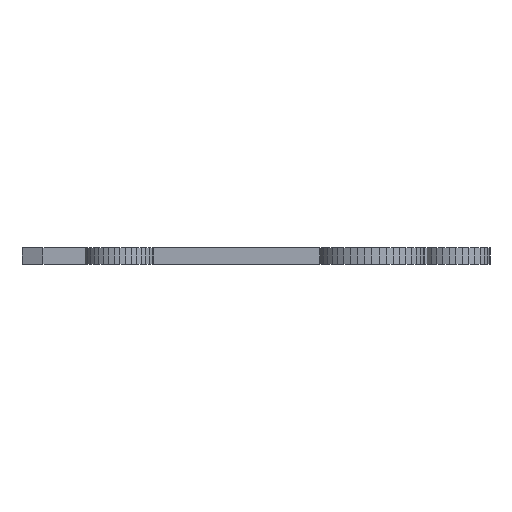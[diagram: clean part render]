
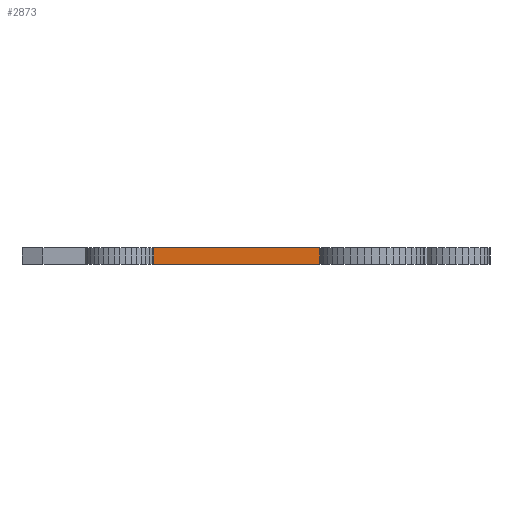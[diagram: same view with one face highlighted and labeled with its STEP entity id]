
A CAD part, left-side view. The second image highlights one B-rep face of the part: STEP entity #2873.
In plain terms, the highlighted planar face has unit normal (-0.999, 0.042, 0).
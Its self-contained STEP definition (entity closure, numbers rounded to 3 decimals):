
#72 = PLANE('',#73);
#73 = AXIS2_PLACEMENT_3D('',#74,#75,#76);
#74 = CARTESIAN_POINT('',(0.,-1.51,2.4));
#75 = DIRECTION('',(-0.,-0.,-1.));
#76 = DIRECTION('',(-1.,0.,0.));
#126 = PLANE('',#127);
#127 = AXIS2_PLACEMENT_3D('',#128,#129,#130);
#128 = CARTESIAN_POINT('',(0.,-1.51,
    0.));
#129 = DIRECTION('',(-0.,-0.,-1.));
#130 = DIRECTION('',(-1.,0.,0.));
#2765 = PLANE('',#2766);
#2766 = AXIS2_PLACEMENT_3D('',#2767,#2768,#2769);
#2767 = CARTESIAN_POINT('',(-4.,-9.634,0.));
#2768 = DIRECTION('',(-0.43,0.903,0.));
#2769 = DIRECTION('',(0.903,0.43,0.));
#2803 = VERTEX_POINT('',#2804);
#2804 = CARTESIAN_POINT('',(-2.942,-9.131,2.4));
#2825 = EDGE_CURVE('',#2826,#2803,#2828,.T.);
#2826 = VERTEX_POINT('',#2827);
#2827 = CARTESIAN_POINT('',(-2.942,-9.131,0.));
#2828 = SURFACE_CURVE('',#2829,(#2833,#2840),.PCURVE_S1.);
#2829 = LINE('',#2830,#2831);
#2830 = CARTESIAN_POINT('',(-2.942,-9.131,0.));
#2831 = VECTOR('',#2832,1.);
#2832 = DIRECTION('',(0.,0.,1.));
#2833 = PCURVE('',#2765,#2834);
#2834 = DEFINITIONAL_REPRESENTATION('',(#2835),#2839);
#2835 = LINE('',#2836,#2837);
#2836 = CARTESIAN_POINT('',(1.172,0.));
#2837 = VECTOR('',#2838,1.);
#2838 = DIRECTION('',(0.,-1.));
#2839 = ( GEOMETRIC_REPRESENTATION_CONTEXT(2) 
PARAMETRIC_REPRESENTATION_CONTEXT() REPRESENTATION_CONTEXT('2D SPACE',''
  ) );
#2840 = PCURVE('',#2841,#2846);
#2841 = PLANE('',#2842);
#2842 = AXIS2_PLACEMENT_3D('',#2843,#2844,#2845);
#2843 = CARTESIAN_POINT('',(-2.942,-9.131,0.));
#2844 = DIRECTION('',(-0.999,0.041,0.));
#2845 = DIRECTION('',(0.041,0.999,0.));
#2846 = DEFINITIONAL_REPRESENTATION('',(#2847),#2851);
#2847 = LINE('',#2848,#2849);
#2848 = CARTESIAN_POINT('',(0.,0.));
#2849 = VECTOR('',#2850,1.);
#2850 = DIRECTION('',(0.,-1.));
#2851 = ( GEOMETRIC_REPRESENTATION_CONTEXT(2) 
PARAMETRIC_REPRESENTATION_CONTEXT() REPRESENTATION_CONTEXT('2D SPACE',''
  ) );
#2873 = ADVANCED_FACE('',(#2874),#2841,.T.);
#2874 = FACE_BOUND('',#2875,.T.);
#2875 = EDGE_LOOP('',(#2876,#2877,#2900,#2928));
#2876 = ORIENTED_EDGE('',*,*,#2825,.T.);
#2877 = ORIENTED_EDGE('',*,*,#2878,.T.);
#2878 = EDGE_CURVE('',#2803,#2879,#2881,.T.);
#2879 = VERTEX_POINT('',#2880);
#2880 = CARTESIAN_POINT('',(-1.956,14.636,2.4));
#2881 = SURFACE_CURVE('',#2882,(#2886,#2893),.PCURVE_S1.);
#2882 = LINE('',#2883,#2884);
#2883 = CARTESIAN_POINT('',(-2.942,-9.131,2.4));
#2884 = VECTOR('',#2885,1.);
#2885 = DIRECTION('',(0.041,0.999,0.));
#2886 = PCURVE('',#2841,#2887);
#2887 = DEFINITIONAL_REPRESENTATION('',(#2888),#2892);
#2888 = LINE('',#2889,#2890);
#2889 = CARTESIAN_POINT('',(0.,-2.4));
#2890 = VECTOR('',#2891,1.);
#2891 = DIRECTION('',(1.,0.));
#2892 = ( GEOMETRIC_REPRESENTATION_CONTEXT(2) 
PARAMETRIC_REPRESENTATION_CONTEXT() REPRESENTATION_CONTEXT('2D SPACE',''
  ) );
#2893 = PCURVE('',#72,#2894);
#2894 = DEFINITIONAL_REPRESENTATION('',(#2895),#2899);
#2895 = LINE('',#2896,#2897);
#2896 = CARTESIAN_POINT('',(2.942,-7.621));
#2897 = VECTOR('',#2898,1.);
#2898 = DIRECTION('',(-0.041,0.999));
#2899 = ( GEOMETRIC_REPRESENTATION_CONTEXT(2) 
PARAMETRIC_REPRESENTATION_CONTEXT() REPRESENTATION_CONTEXT('2D SPACE',''
  ) );
#2900 = ORIENTED_EDGE('',*,*,#2901,.F.);
#2901 = EDGE_CURVE('',#2902,#2879,#2904,.T.);
#2902 = VERTEX_POINT('',#2903);
#2903 = CARTESIAN_POINT('',(-1.956,14.636,0.));
#2904 = SURFACE_CURVE('',#2905,(#2909,#2916),.PCURVE_S1.);
#2905 = LINE('',#2906,#2907);
#2906 = CARTESIAN_POINT('',(-1.956,14.636,0.));
#2907 = VECTOR('',#2908,1.);
#2908 = DIRECTION('',(0.,0.,1.));
#2909 = PCURVE('',#2841,#2910);
#2910 = DEFINITIONAL_REPRESENTATION('',(#2911),#2915);
#2911 = LINE('',#2912,#2913);
#2912 = CARTESIAN_POINT('',(23.788,0.));
#2913 = VECTOR('',#2914,1.);
#2914 = DIRECTION('',(0.,-1.));
#2915 = ( GEOMETRIC_REPRESENTATION_CONTEXT(2) 
PARAMETRIC_REPRESENTATION_CONTEXT() REPRESENTATION_CONTEXT('2D SPACE',''
  ) );
#2916 = PCURVE('',#2917,#2922);
#2917 = PLANE('',#2918);
#2918 = AXIS2_PLACEMENT_3D('',#2919,#2920,#2921);
#2919 = CARTESIAN_POINT('',(-1.956,14.636,0.));
#2920 = DIRECTION('',(-0.383,-0.924,0.));
#2921 = DIRECTION('',(-0.924,0.383,0.));
#2922 = DEFINITIONAL_REPRESENTATION('',(#2923),#2927);
#2923 = LINE('',#2924,#2925);
#2924 = CARTESIAN_POINT('',(0.,0.));
#2925 = VECTOR('',#2926,1.);
#2926 = DIRECTION('',(0.,-1.));
#2927 = ( GEOMETRIC_REPRESENTATION_CONTEXT(2) 
PARAMETRIC_REPRESENTATION_CONTEXT() REPRESENTATION_CONTEXT('2D SPACE',''
  ) );
#2928 = ORIENTED_EDGE('',*,*,#2929,.F.);
#2929 = EDGE_CURVE('',#2826,#2902,#2930,.T.);
#2930 = SURFACE_CURVE('',#2931,(#2935,#2942),.PCURVE_S1.);
#2931 = LINE('',#2932,#2933);
#2932 = CARTESIAN_POINT('',(-2.942,-9.131,0.));
#2933 = VECTOR('',#2934,1.);
#2934 = DIRECTION('',(0.041,0.999,0.));
#2935 = PCURVE('',#2841,#2936);
#2936 = DEFINITIONAL_REPRESENTATION('',(#2937),#2941);
#2937 = LINE('',#2938,#2939);
#2938 = CARTESIAN_POINT('',(0.,0.));
#2939 = VECTOR('',#2940,1.);
#2940 = DIRECTION('',(1.,0.));
#2941 = ( GEOMETRIC_REPRESENTATION_CONTEXT(2) 
PARAMETRIC_REPRESENTATION_CONTEXT() REPRESENTATION_CONTEXT('2D SPACE',''
  ) );
#2942 = PCURVE('',#126,#2943);
#2943 = DEFINITIONAL_REPRESENTATION('',(#2944),#2948);
#2944 = LINE('',#2945,#2946);
#2945 = CARTESIAN_POINT('',(2.942,-7.621));
#2946 = VECTOR('',#2947,1.);
#2947 = DIRECTION('',(-0.041,0.999));
#2948 = ( GEOMETRIC_REPRESENTATION_CONTEXT(2) 
PARAMETRIC_REPRESENTATION_CONTEXT() REPRESENTATION_CONTEXT('2D SPACE',''
  ) );
